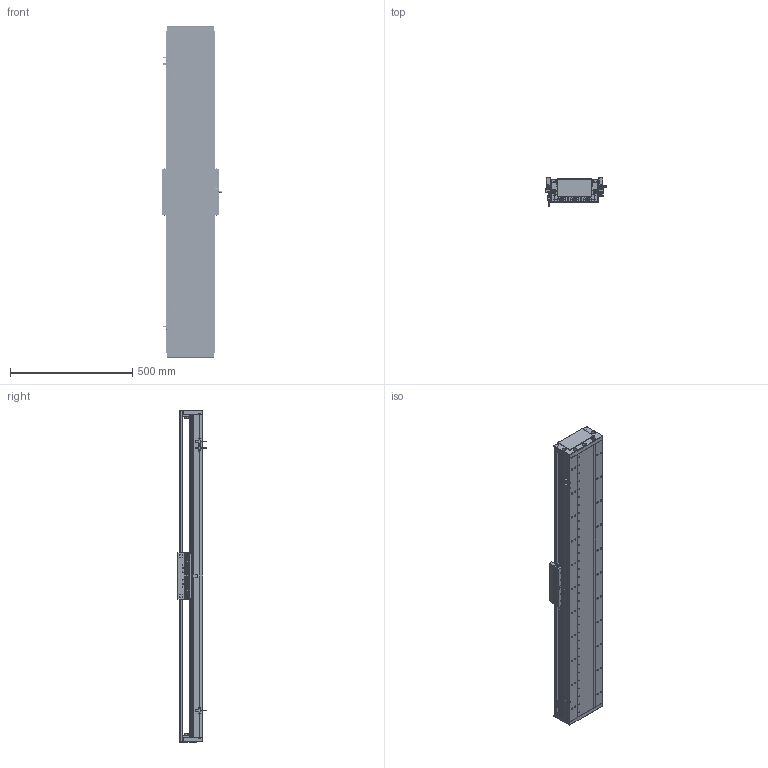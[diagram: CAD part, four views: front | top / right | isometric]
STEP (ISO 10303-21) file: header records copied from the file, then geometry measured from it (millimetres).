
FILE_DESCRIPTION (( 'STEP AP203' ), '1' );
FILE_NAME ('DA-C195-C2-T1080-C010-0.2 眻盄萇儂.STEP', '2025-08-15T01:04:23', ( '' ), ( '' ), 'SwSTEP 2.0', 'SolidWorks 2019', '' );
FILE_SCHEMA (( 'CONFIG_CONTROL_DESIGN' ));
Length unit declared in the file: millimetre
Products named in the file (12): 66156-0001-003-00 裔啣; CU195-C2賑輸-俋楷; DA-C195-C2-T1080-C010-0.2 眻盄萇儂; 66156-0001-005-00 光电感应片(默认); DA195-DG-H-00  端盖（压铸镂空版）; IU-CU195-L-00 菁釱(L1320); PM-T45ㄗ侂狟ㄘ; LMT黍杅芛; DA95-HXJ-00 遣喳砎蝶; 葩璃 DA95-GT-T-00; MS200 棠掑喜S315-T240; IU-CU195-L 菁釱絳寢
Assembly tree (20 placements, depth 3):
  DA-C195-C2-T1080-C010-0.2 眻盄萇儂
    IU-CU195-L 菁釱絳寢
      IU-CU195-L-00 菁釱(L1320)
      葩璃 DA95-GT-T-00  x4
    LMT黍杅芛
    MS200 棠掑喜S315-T240
    PM-T45ㄗ侂狟ㄘ  x3
    66156-0001-005-00 光电感应片(默认)
    DA195-DG-H-00  端盖（压铸镂空版）  x2
    DA95-HXJ-00 遣喳砎蝶  x4
    66156-0001-003-00 裔啣
    CU195-C2賑輸-俋楷
Bounding box: 248 x 115.6 x 1360 mm (x, y, z)
Volume: 9345465.3 mm3; surface area: 2676698.4 mm2
Topology: 58 solids, 130 shells, 5313 faces, 13652 edges, 8313 vertices
Faces by surface type: cylinder 2325, plane 1638, bspline 710, cone 560, torus 44, sphere 36
Entity records: 148347 total; most frequent: CARTESIAN_POINT 46427, ORIENTED_EDGE 21358, DIRECTION 20424, EDGE_CURVE 10679, AXIS2_PLACEMENT_3D 7607, VERTEX_POINT 6743, VECTOR 5210, LINE 5210
